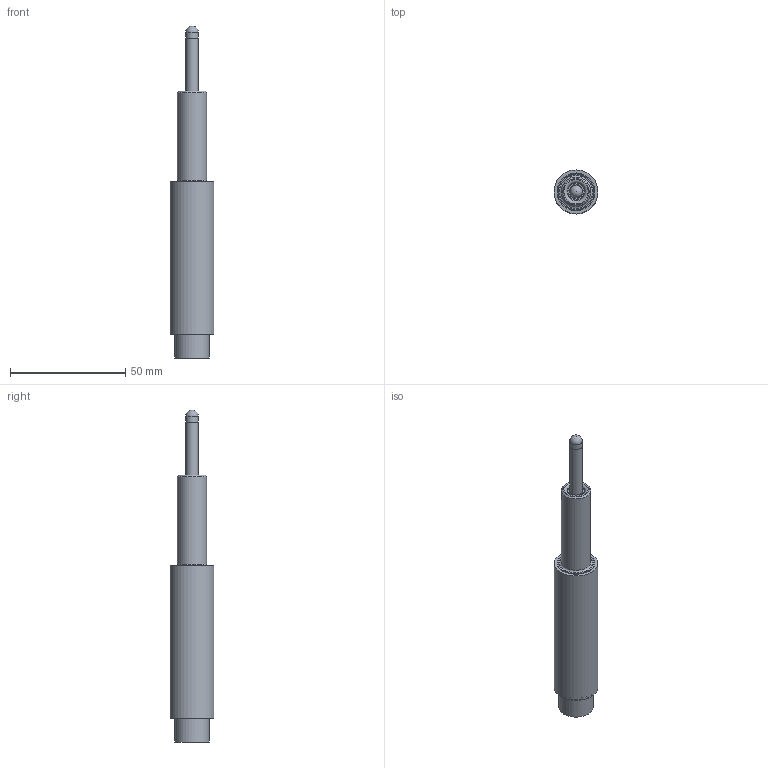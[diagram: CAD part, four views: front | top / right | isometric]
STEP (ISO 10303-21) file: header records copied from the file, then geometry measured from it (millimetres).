
FILE_DESCRIPTION(/* description */ (''),/* implementation_level */ '2;1');
FILE_NAME(/* name */ 'F:\GH SERIES\GH-750-A-XXXX\GH-750-A-125\GH-750-A-125 ASS''Y.iam.stp',/* time_stamp */ '2021-11-17T12:39:45-05:00',/* author */ ('Justin'),/* organization */ (''),/* preprocessor_version */ 'ST-DEVELOPER v18.1',/* originating_system */ 'Autodesk Inventor 2022',/* authorisation */ '');
FILE_SCHEMA (('AUTOMOTIVE_DESIGN { 1 0 10303 214 3 1 1 }'));
Length unit declared in the file: inch
Products named in the file (3): GH-750-A-125 ASS'Y; GH-750-A-125 HOUSING_SW; GH-750-A-125 SHAFT_SW
Assembly tree (2 placements, depth 2):
  GH-750-A-125 ASS'Y
    GH-750-A-125 HOUSING_SW
    GH-750-A-125 SHAFT_SW
Bounding box: 19.05 x 19.05 x 143.92 mm (x, y, z)
Volume: 12591.7 mm3; surface area: 15400.2 mm2
Topology: 10 solids, 10 shells, 126 faces, 243 edges, 158 vertices
Faces by surface type: plane 53, cylinder 51, cone 15, torus 4, bspline 2, sphere 1
Full cylindrical faces by diameter (mm): 0.762 x12, 2.845 x3, 4.826 x2, 5.334 x4, 5.397 x1, 7.671 x2, 7.874 x1, 12.7 x1, 13.208 x1, 14.986 x1, 15.748 x2, 16.51 x1, 17.069 x1, 18.034 x1, 18.415 x3, 19.05 x1
Entity records: 3822 total; most frequent: CARTESIAN_POINT 804, DIRECTION 638, ORIENTED_EDGE 482, AXIS2_PLACEMENT_3D 268, EDGE_CURVE 241, EDGE_LOOP 161, VERTEX_POINT 158, CIRCLE 139
